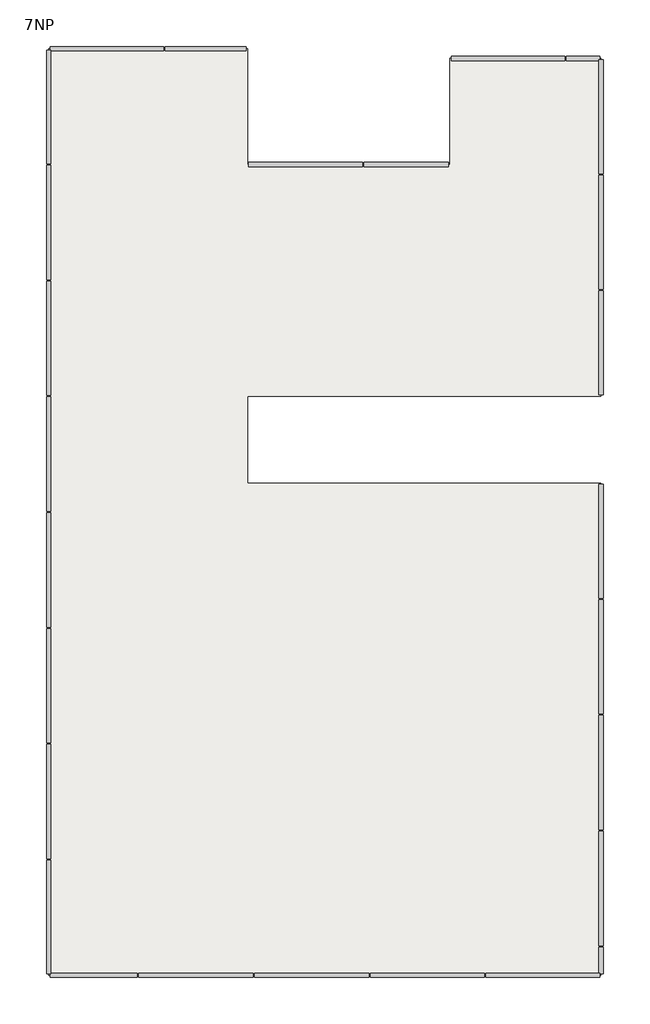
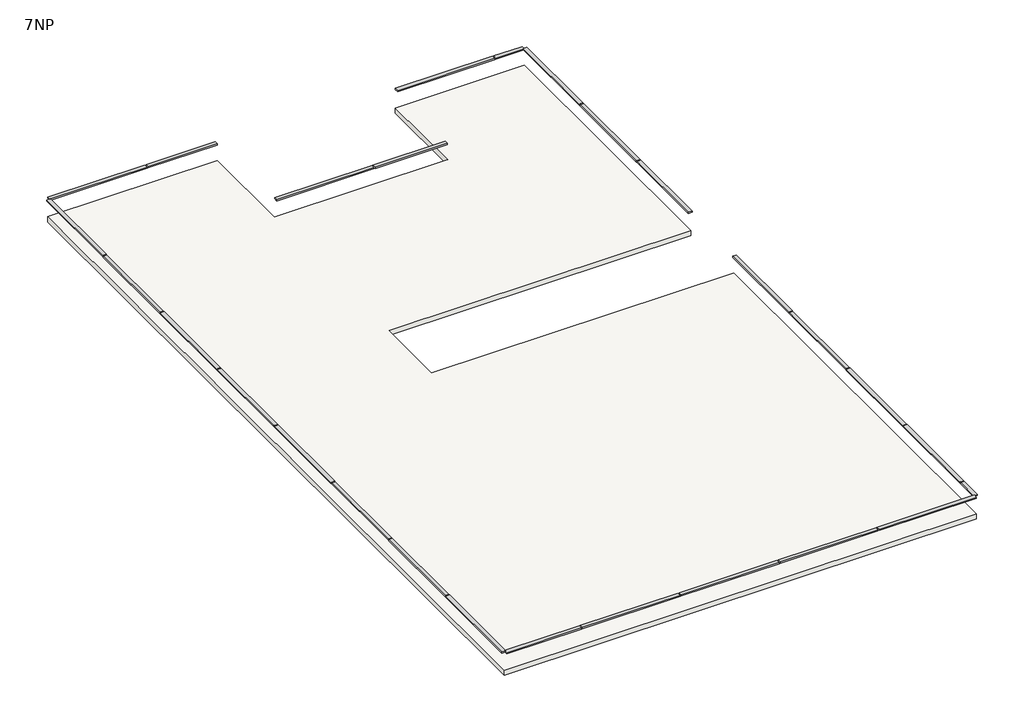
# One storey: 27 members, 1 slab.
"""IFC4 building model written with IfcOpenShell, lengths in millimetres."""

from ifc_helpers import new_model, si_unit, frame, origin, place, context, project, spatial, polyline, outline, extrude, transform, mapped, element, save
from components import rectangular_mullion_50_x_150mm_55b3505a, rectangular_mullion_50_x_150mm_182bfbd5, rectangular_mullion_50_x_150mm_402ab136, rectangular_mullion_50_x_150mm_a91aaa2b, rectangular_mullion_50_x_150mm_60738c79, rectangular_mullion_50_x_150mm_5eb82d41, rectangular_mullion_50_x_150mm_1a85c1a0, rectangular_mullion_50_x_150mm_4a524db7

model = new_model("IFC4")

# Units and contexts
model_context = context("Model", 3, world=origin())
ifc_project = project(units=[si_unit("LENGTHUNIT", "METRE", prefix="MILLI")], contexts=[model_context])

# Site, building, storey
site = spatial("IfcSite", under=ifc_project)
building = spatial("IfcBuilding", under=site)
storey = spatial("IfcBuildingStorey", under=building, Name="7NP", Elevation=28000.0)

# Members
placement = place(None, origin())
rectangular_mullion_50_x_150mm_shape = rectangular_mullion_50_x_150mm_55b3505a(model_context)
element("IfcMember", 1, ObjectType="Rectangular Mullion : 50 x 150mm", at=placement, inside=storey, context=model_context, shape_type="MappedRepresentation", body=[
    mapped(rectangular_mullion_50_x_150mm_shape, transform((13503.2660975, 14.3555415, 28773.2453384), x_axis=(0.0, 0.0, 1.0), y_axis=(1.0, 0.0, 0.0), z_axis=(0.0, 1.0, 0.0))),
])
rectangular_mullion_50_x_150mm_2_shape = rectangular_mullion_50_x_150mm_182bfbd5(model_context)
element("IfcMember", 2, ObjectType="Rectangular Mullion : 50 x 150mm", at=placement, inside=storey, context=model_context, shape_type="MappedRepresentation", body=[
    mapped(rectangular_mullion_50_x_150mm_2_shape, transform((13503.2660975, 4014.3555415, 28773.2453384), x_axis=(0.0, 0.0, 1.0), y_axis=(1.0, 0.0, 0.0), z_axis=(0.0, 1.0, 0.0))),
])
element("IfcMember", 3, ObjectType="Rectangular Mullion : 50 x 150mm", at=placement, inside=storey, context=model_context, shape_type="MappedRepresentation", body=[
    mapped(rectangular_mullion_50_x_150mm_2_shape, transform((13503.2660975, -10649.0160434, 28773.2453384), x_axis=(0.0, 0.0, 1.0), y_axis=(1.0, 0.0, 0.0), z_axis=(0.0, 1.0, 0.0))),
])
element("IfcMember", 4, ObjectType="Rectangular Mullion : 50 x 150mm", at=placement, inside=storey, context=model_context, shape_type="MappedRepresentation", body=[
    mapped(rectangular_mullion_50_x_150mm_2_shape, transform((13503.2660975, -14649.0160434, 28773.2453384), x_axis=(0.0, 0.0, 1.0), y_axis=(1.0, 0.0, 0.0), z_axis=(0.0, 1.0, 0.0))),
])
element("IfcMember", 5, ObjectType="Rectangular Mullion : 50 x 150mm", at=placement, inside=storey, context=model_context, shape_type="MappedRepresentation", body=[
    mapped(rectangular_mullion_50_x_150mm_2_shape, transform((13503.2660975, -18649.0160434, 28773.2453384), x_axis=(0.0, 0.0, 1.0), y_axis=(1.0, 0.0, 0.0), z_axis=(0.0, 1.0, 0.0))),
])
element("IfcMember", 6, ObjectType="Rectangular Mullion : 50 x 150mm", at=placement, inside=storey, context=model_context, shape_type="MappedRepresentation", body=[
    mapped(rectangular_mullion_50_x_150mm_2_shape, transform((9478.2660975, -23624.0160434, 28773.2453384), x_axis=(0.0, 0.0, 1.0), y_axis=(0.0, -1.0, 0.0), z_axis=(1.0, 0.0, 0.0))),
])
element("IfcMember", 7, ObjectType="Rectangular Mullion : 50 x 150mm", at=placement, inside=storey, context=model_context, shape_type="MappedRepresentation", body=[
    mapped(rectangular_mullion_50_x_150mm_2_shape, transform((5478.2660975, -23624.0160434, 28773.2453384), x_axis=(0.0, 0.0, 1.0), y_axis=(0.0, -1.0, 0.0), z_axis=(1.0, 0.0, 0.0))),
])
element("IfcMember", 8, ObjectType="Rectangular Mullion : 50 x 150mm", at=placement, inside=storey, context=model_context, shape_type="MappedRepresentation", body=[
    mapped(rectangular_mullion_50_x_150mm_2_shape, transform((1478.2660975, -23624.0160434, 28773.2453384), x_axis=(0.0, 0.0, 1.0), y_axis=(0.0, -1.0, 0.0), z_axis=(1.0, 0.0, 0.0))),
])
element("IfcMember", 9, ObjectType="Rectangular Mullion : 50 x 150mm", at=placement, inside=storey, context=model_context, shape_type="MappedRepresentation", body=[
    mapped(rectangular_mullion_50_x_150mm_2_shape, transform((-5587.173406, -19599.0160434, 28773.2453384), x_axis=(0.0, 0.0, 1.0), y_axis=(-1.0, 0.0, 0.0), z_axis=(0.0, -1.0, 0.0))),
])
element("IfcMember", 10, ObjectType="Rectangular Mullion : 50 x 150mm", at=placement, inside=storey, context=model_context, shape_type="MappedRepresentation", body=[
    mapped(rectangular_mullion_50_x_150mm_2_shape, transform((-5587.173406, -15599.0160434, 28773.2453384), x_axis=(0.0, 0.0, 1.0), y_axis=(-1.0, 0.0, 0.0), z_axis=(0.0, -1.0, 0.0))),
])
element("IfcMember", 11, ObjectType="Rectangular Mullion : 50 x 150mm", at=placement, inside=storey, context=model_context, shape_type="MappedRepresentation", body=[
    mapped(rectangular_mullion_50_x_150mm_2_shape, transform((-5587.173406, -11599.0160434, 28773.2453384), x_axis=(0.0, 0.0, 1.0), y_axis=(-1.0, 0.0, 0.0), z_axis=(0.0, -1.0, 0.0))),
])
element("IfcMember", 12, ObjectType="Rectangular Mullion : 50 x 150mm", at=placement, inside=storey, context=model_context, shape_type="MappedRepresentation", body=[
    mapped(rectangular_mullion_50_x_150mm_2_shape, transform((-5587.173406, -7599.0160434, 28773.2453384), x_axis=(0.0, 0.0, 1.0), y_axis=(-1.0, 0.0, 0.0), z_axis=(0.0, -1.0, 0.0))),
])
element("IfcMember", 13, ObjectType="Rectangular Mullion : 50 x 150mm", at=placement, inside=storey, context=model_context, shape_type="MappedRepresentation", body=[
    mapped(rectangular_mullion_50_x_150mm_2_shape, transform((-5587.173406, -3599.0160434, 28773.2453384), x_axis=(0.0, 0.0, 1.0), y_axis=(-1.0, 0.0, 0.0), z_axis=(0.0, -1.0, 0.0))),
])
element("IfcMember", 14, ObjectType="Rectangular Mullion : 50 x 150mm", at=placement, inside=storey, context=model_context, shape_type="MappedRepresentation", body=[
    mapped(rectangular_mullion_50_x_150mm_2_shape, transform((-5587.173406, 400.9839566, 28773.2453384), x_axis=(0.0, 0.0, 1.0), y_axis=(-1.0, 0.0, 0.0), z_axis=(0.0, -1.0, 0.0))),
])
rectangular_mullion_50_x_150mm_3_shape = rectangular_mullion_50_x_150mm_402ab136(model_context)
element("IfcMember", 15, ObjectType="Rectangular Mullion : 50 x 150mm", at=placement, inside=storey, context=model_context, shape_type="MappedRepresentation", body=[
    mapped(rectangular_mullion_50_x_150mm_3_shape, transform((13503.2660975, 7989.3555415, 28773.2453384), x_axis=(0.0, 0.0, 1.0), y_axis=(1.0, 0.0, 0.0), z_axis=(0.0, 1.0, 0.0))),
])
element("IfcMember", 16, ObjectType="Rectangular Mullion : 50 x 150mm", at=placement, inside=storey, context=model_context, shape_type="MappedRepresentation", body=[
    mapped(rectangular_mullion_50_x_150mm_3_shape, transform((13503.2660975, -6674.0160434, 28773.2453384), x_axis=(0.0, 0.0, 1.0), y_axis=(1.0, 0.0, 0.0), z_axis=(0.0, 1.0, 0.0))),
])
element("IfcMember", 17, ObjectType="Rectangular Mullion : 50 x 150mm", at=placement, inside=storey, context=model_context, shape_type="MappedRepresentation", body=[
    mapped(rectangular_mullion_50_x_150mm_3_shape, transform((13453.2660975, -23624.0160434, 28773.2453384), x_axis=(0.0, 0.0, 1.0), y_axis=(0.0, -1.0, 0.0), z_axis=(1.0, 0.0, 0.0))),
])
element("IfcMember", 18, ObjectType="Rectangular Mullion : 50 x 150mm", at=placement, inside=storey, context=model_context, shape_type="MappedRepresentation", body=[
    mapped(rectangular_mullion_50_x_150mm_3_shape, transform((-5587.173406, 4400.9839566, 28773.2453384), x_axis=(0.0, 0.0, 1.0), y_axis=(-1.0, 0.0, 0.0), z_axis=(0.0, -1.0, 0.0))),
])
element("IfcMember", 19, ObjectType="Rectangular Mullion : 50 x 150mm", at=placement, inside=storey, context=model_context, shape_type="MappedRepresentation", body=[
    mapped(rectangular_mullion_50_x_150mm_3_shape, transform((-5587.173406, -23574.0160434, 28773.2453384), x_axis=(0.0, 0.0, 1.0), y_axis=(-1.0, 0.0, 0.0), z_axis=(0.0, -1.0, 0.0))),
])
element("IfcMember", 20, ObjectType="Rectangular Mullion : 50 x 150mm", at=placement, inside=storey, context=model_context, shape_type="MappedRepresentation", body=[
    mapped(rectangular_mullion_50_x_150mm_3_shape, transform((-5537.173406, 8375.9839566, 28773.2453384), x_axis=(0.0, 0.0, 1.0), y_axis=(0.0, 1.0, 0.0), z_axis=(-1.0, 0.0, 0.0))),
])
element("IfcMember", 21, ObjectType="Rectangular Mullion : 50 x 150mm", at=placement, inside=storey, context=model_context, shape_type="MappedRepresentation", body=[
    mapped(rectangular_mullion_50_x_150mm_3_shape, transform((1328.419219, 4375.9839566, 28773.2453384), x_axis=(0.0, 0.0, 1.0), y_axis=(0.0, 1.0, 0.0), z_axis=(-1.0, 0.0, 0.0))),
])
element("IfcMember", 22, ObjectType="Rectangular Mullion : 50 x 150mm", at=placement, inside=storey, context=model_context, shape_type="MappedRepresentation", body=[
    mapped(rectangular_mullion_50_x_150mm_3_shape, transform((8328.419219, 8039.3555415, 28773.2453384), x_axis=(0.0, 0.0, 1.0), y_axis=(0.0, 1.0, 0.0), z_axis=(-1.0, 0.0, 0.0))),
])
rectangular_mullion_50_x_150mm_4_shape = rectangular_mullion_50_x_150mm_a91aaa2b(model_context)
element("IfcMember", 23, ObjectType="Rectangular Mullion : 50 x 150mm", at=placement, inside=storey, context=model_context, shape_type="MappedRepresentation", body=[
    mapped(rectangular_mullion_50_x_150mm_4_shape, transform((13503.2660975, -22649.0160434, 28773.2453384), x_axis=(0.0, 0.0, 1.0), y_axis=(1.0, 0.0, 0.0), z_axis=(0.0, 1.0, 0.0))),
])
rectangular_mullion_50_x_150mm_5_shape = rectangular_mullion_50_x_150mm_60738c79(model_context)
element("IfcMember", 24, ObjectType="Rectangular Mullion : 50 x 150mm", at=placement, inside=storey, context=model_context, shape_type="MappedRepresentation", body=[
    mapped(rectangular_mullion_50_x_150mm_5_shape, transform((-2521.7339025, -23624.0160434, 28773.2453384), x_axis=(0.0, 0.0, 1.0), y_axis=(0.0, -1.0, 0.0), z_axis=(1.0, 0.0, 0.0))),
])
rectangular_mullion_50_x_150mm_6_shape = rectangular_mullion_50_x_150mm_5eb82d41(model_context)
element("IfcMember", 25, ObjectType="Rectangular Mullion : 50 x 150mm", at=placement, inside=storey, context=model_context, shape_type="MappedRepresentation", body=[
    mapped(rectangular_mullion_50_x_150mm_6_shape, transform((-1562.173406, 8375.9839566, 28773.2453384), x_axis=(0.0, 0.0, 1.0), y_axis=(0.0, 1.0, 0.0), z_axis=(-1.0, 0.0, 0.0))),
])
rectangular_mullion_50_x_150mm_7_shape = rectangular_mullion_50_x_150mm_1a85c1a0(model_context)
element("IfcMember", 26, ObjectType="Rectangular Mullion : 50 x 150mm", at=placement, inside=storey, context=model_context, shape_type="MappedRepresentation", body=[
    mapped(rectangular_mullion_50_x_150mm_7_shape, transform((5303.419219, 4375.9839566, 28773.2453384), x_axis=(0.0, 0.0, 1.0), y_axis=(0.0, 1.0, 0.0), z_axis=(-1.0, 0.0, 0.0))),
])
rectangular_mullion_50_x_150mm_8_shape = rectangular_mullion_50_x_150mm_4a524db7(model_context)
element("IfcMember", 27, ObjectType="Rectangular Mullion : 50 x 150mm", at=placement, inside=storey, context=model_context, shape_type="MappedRepresentation", body=[
    mapped(rectangular_mullion_50_x_150mm_8_shape, transform((12303.419219, 8039.3555415, 28773.2453384), x_axis=(0.0, 0.0, 1.0), y_axis=(0.0, 1.0, 0.0), z_axis=(-1.0, 0.0, 0.0))),
])

# Slab
element("IfcSlab", 28, ObjectType="Insitu Concrete 225mm", at=placement, inside=storey, context=model_context, shape_type="SweptSolid", body=[
    extrude(outline(polyline([(-5587.173406, 8375.9839566), (1278.419219, 8375.9839566), (1278.419219, 4375.9839566), (8278.419219, 4375.9839566), (8278.419219, 8039.3555415), (13503.2660975, 8039.3555415), (13503.2660975, -3624.0160434), (1278.419219, -3624.0160434), (1278.419219, -6624.0160434), (13503.2660975, -6624.0160434), (13503.2660975, -23624.0160434), (-5587.173406, -23624.0160434), (-5587.173406, 8375.9839566)])), frame((0.0, 0.0, 27775.0), z_axis=(0.0, 0.0, 1.0), x_axis=(1.0, 0.0, 0.0)), (0.0, 0.0, 1.0), 225.0),
])

save(model, "model.ifc")
